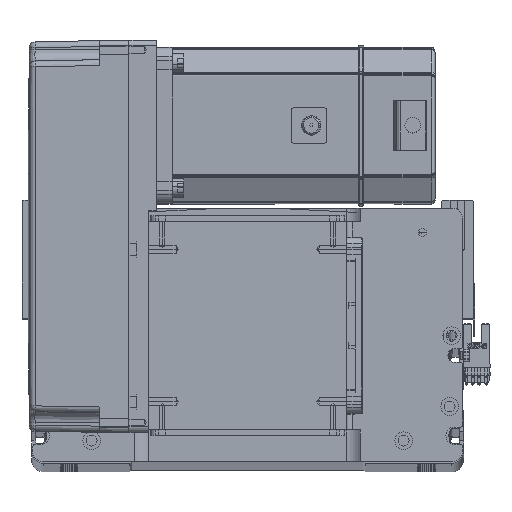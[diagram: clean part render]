
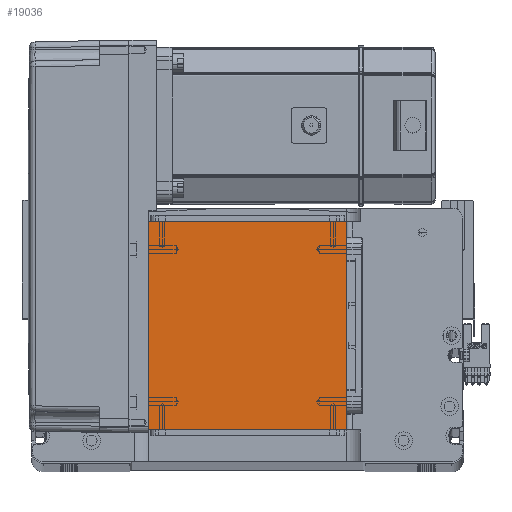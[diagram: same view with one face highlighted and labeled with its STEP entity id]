
A CAD part, top view. The second image highlights one B-rep face of the part: STEP entity #19036.
In plain terms, the highlighted planar face has unit normal (0, 0, 1).
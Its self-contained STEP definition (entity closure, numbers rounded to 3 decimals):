
#11 = VECTOR ( 'NONE', #41355, 1000. ) ;
#324 = EDGE_CURVE ( 'NONE', #44973, #29902, #28718, .T. ) ;
#1188 = ORIENTED_EDGE ( 'NONE', *, *, #44943, .T. ) ;
#1870 = CARTESIAN_POINT ( 'NONE',  ( -50.5, 122., 115. ) ) ;
#11080 = VECTOR ( 'NONE', #19261, 1000. ) ;
#14073 = CARTESIAN_POINT ( 'NONE',  ( 50.5, 122., 115. ) ) ;
#17970 = DIRECTION ( 'NONE',  ( 0., 0., 1. ) ) ;
#18344 = FACE_OUTER_BOUND ( 'NONE', #23384, .T. ) ;
#19036 = ADVANCED_FACE ( 'NONE', ( #18344 ), #44247, .T. ) ;
#19048 = DIRECTION ( 'NONE',  ( 0., -1., 0. ) ) ;
#19261 = DIRECTION ( 'NONE',  ( 0., 1., 0. ) ) ;
#20327 = ORIENTED_EDGE ( 'NONE', *, *, #23143, .T. ) ;
#23035 = ORIENTED_EDGE ( 'NONE', *, *, #324, .T. ) ;
#23143 = EDGE_CURVE ( 'NONE', #29902, #41980, #45306, .T. ) ;
#23384 = EDGE_LOOP ( 'NONE', ( #23035, #20327, #1188, #35457 ) ) ;
#28659 = CARTESIAN_POINT ( 'NONE',  ( -50.5, 122., 115. ) ) ;
#28718 = LINE ( 'NONE', #45360, #56189 ) ;
#29902 = VERTEX_POINT ( 'NONE', #46040 ) ;
#30379 = CARTESIAN_POINT ( 'NONE',  ( 0., 0., 115. ) ) ;
#31528 = CARTESIAN_POINT ( 'NONE',  ( -50.5, 16., 115. ) ) ;
#33046 = VERTEX_POINT ( 'NONE', #14073 ) ;
#34648 = CARTESIAN_POINT ( 'NONE',  ( 50.5, 16., 115. ) ) ;
#35457 = ORIENTED_EDGE ( 'NONE', *, *, #46349, .T. ) ;
#37342 = DIRECTION ( 'NONE',  ( -1., 0., 0. ) ) ;
#37819 = VECTOR ( 'NONE', #37342, 1000. ) ;
#40154 = AXIS2_PLACEMENT_3D ( 'NONE', #30379, #17970, #43862 ) ;
#41355 = DIRECTION ( 'NONE',  ( 1., 0., 0. ) ) ;
#41558 = CARTESIAN_POINT ( 'NONE',  ( 50.5, 122., 115. ) ) ;
#41980 = VERTEX_POINT ( 'NONE', #34648 ) ;
#43317 = LINE ( 'NONE', #1870, #37819 ) ;
#43862 = DIRECTION ( 'NONE',  ( 1., 0., 0. ) ) ;
#44247 = PLANE ( 'NONE',  #40154 ) ;
#44943 = EDGE_CURVE ( 'NONE', #41980, #33046, #49582, .T. ) ;
#44973 = VERTEX_POINT ( 'NONE', #28659 ) ;
#45306 = LINE ( 'NONE', #31528, #11 ) ;
#45360 = CARTESIAN_POINT ( 'NONE',  ( -50.5, 122., 115. ) ) ;
#46040 = CARTESIAN_POINT ( 'NONE',  ( -50.5, 16., 115. ) ) ;
#46349 = EDGE_CURVE ( 'NONE', #33046, #44973, #43317, .T. ) ;
#49582 = LINE ( 'NONE', #41558, #11080 ) ;
#56189 = VECTOR ( 'NONE', #19048, 1000. ) ;
